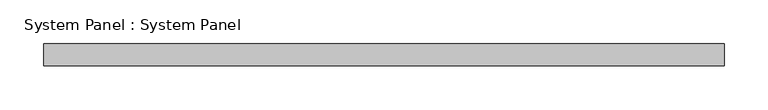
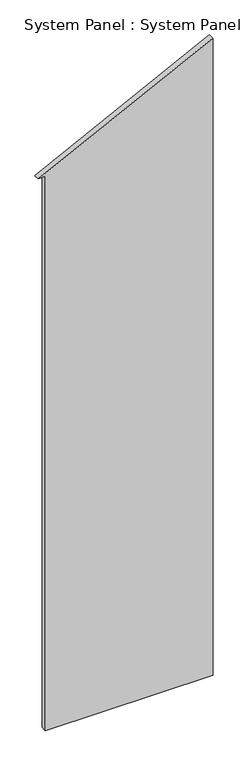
"""IFC4 building model written with IfcOpenShell, lengths in millimetres: plate geometry, System Panel : System Panel."""

from ifc_helpers import new_model, si_unit, frame, origin, place, context, project, spatial, polyline, outline, extrude, source, transform, mapped, element, save


def system_panel_system_panel_57bbfc52(model_context):
    return source(origin(), model_context, "Body", "SweptSolid", [
        extrude(outline(polyline([(0.0, 390.525), (3006.725, 390.525), (2616.2, -390.525), (2616.2, -358.775), (0.0, -358.775), (0.0, 390.525)])), frame((0.0, 19.05, 0.0), z_axis=(0.0, 1.0, 0.0), x_axis=(0.0, 0.0, 1.0)), (0.0, 0.0, 1.0), 25.4),
    ])


if __name__ == "__main__":
    model = new_model("IFC4")
    model_context = context("Model", 3, world=origin())
    ifc_project = project(units=[si_unit("LENGTHUNIT", "METRE", prefix="MILLI")], contexts=[model_context])
    site = spatial("IfcSite", under=ifc_project)
    building = spatial("IfcBuilding", under=site)
    placement = place(None, origin())
    system_panel_system_panel_shape = system_panel_system_panel_57bbfc52(model_context)
    element("IfcPlate", 1, ObjectType="System Panel : System Panel", at=placement, inside=building, context=model_context, shape_type="MappedRepresentation", body=[
        mapped(system_panel_system_panel_shape, transform((0.0, 0.0, 0.0), x_axis=(1.0, 0.0, 0.0), y_axis=(0.0, 1.0, 0.0), z_axis=(0.0, 0.0, 1.0))),
    ])
    save(model, "model.ifc")
